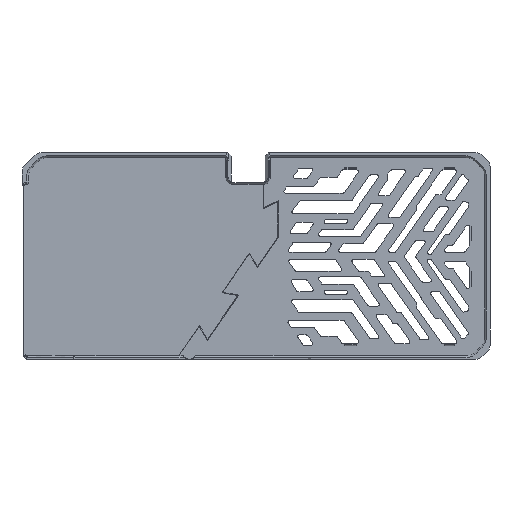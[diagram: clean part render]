
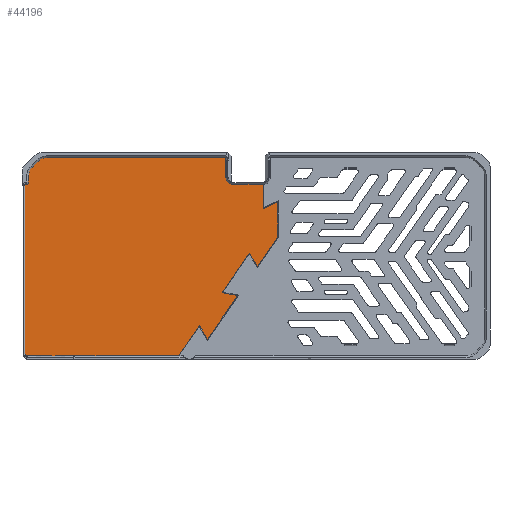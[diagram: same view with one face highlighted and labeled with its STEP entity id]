
A CAD part, top view. The second image highlights one B-rep face of the part: STEP entity #44196.
In plain terms, the highlighted planar face has unit normal (0, 0, 1).
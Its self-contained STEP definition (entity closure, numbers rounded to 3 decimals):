
#31089=DIRECTION('',(0.,-1.,0.));
#31090=VECTOR('',#31089,13.659);
#31091=CARTESIAN_POINT('',(3.8,40.783,-39.5));
#31092=LINE('',#31091,#31090);
#31093=DIRECTION('',(-0.901,-0.435,0.));
#31094=VECTOR('',#31093,8.883);
#31095=CARTESIAN_POINT('',(11.8,30.985,-39.5));
#31096=LINE('',#31095,#31094);
#31097=DIRECTION('',(0.,1.,0.));
#31098=VECTOR('',#31097,20.);
#31099=CARTESIAN_POINT('',(11.8,10.985,-39.5));
#31100=LINE('',#31099,#31098);
#31101=DIRECTION('',(0.566,0.825,0.));
#31102=VECTOR('',#31101,20.);
#31103=CARTESIAN_POINT('',(0.483,-5.506,-39.5));
#31104=LINE('',#31103,#31102);
#31105=DIRECTION('',(0.515,-0.857,0.));
#31106=VECTOR('',#31105,8.794);
#31107=CARTESIAN_POINT('',(-4.047,2.031,-39.5));
#31108=LINE('',#31107,#31106);
#31109=DIRECTION('',(-0.566,-0.825,0.));
#31110=VECTOR('',#31109,27.015);
#31111=CARTESIAN_POINT('',(-4.047,2.031,-39.5));
#31112=LINE('',#31111,#31110);
#31113=DIRECTION('',(-0.985,0.172,0.));
#31114=VECTOR('',#31113,8.794);
#31115=CARTESIAN_POINT('',(-10.671,-21.76,-39.5));
#31116=LINE('',#31115,#31114);
#31117=DIRECTION('',(0.566,0.825,0.));
#31118=VECTOR('',#31117,30.);
#31119=CARTESIAN_POINT('',(-27.646,-46.495,-39.5));
#31120=LINE('',#31119,#31118);
#31121=DIRECTION('',(0.498,-0.867,0.));
#31122=VECTOR('',#31121,8.878);
#31123=CARTESIAN_POINT('',(-32.064,-38.795,-39.5));
#31124=LINE('',#31123,#31122);
#31125=DIRECTION('',(-0.566,-0.825,0.));
#31126=VECTOR('',#31125,20.603);
#31127=CARTESIAN_POINT('',(-32.064,-38.795,-39.5));
#31128=LINE('',#31127,#31126);
#31129=DIRECTION('',(1.,0.,0.));
#31130=VECTOR('',#31129,46.453);
#31131=CARTESIAN_POINT('',(-90.175,-55.783,-39.5));
#31132=LINE('',#31131,#31130);
#31133=CARTESIAN_POINT('',(-90.653,-53.38,-39.5));
#31134=DIRECTION('',(0.,0.,-1.));
#31135=DIRECTION('',(0.195,-0.981,0.));
#31136=AXIS2_PLACEMENT_3D('',#31133,#31134,#31135);
#31138=DIRECTION('',(1.,0.,0.));
#31139=VECTOR('',#31138,22.186);
#31140=CARTESIAN_POINT('',(-113.317,-55.783,-39.5));
#31141=LINE('',#31140,#31139);
#31142=CARTESIAN_POINT('',(-114.303,-53.54,-39.5));
#31143=DIRECTION('',(0.,0.,-1.));
#31144=DIRECTION('',(0.402,-0.915,0.));
#31145=AXIS2_PLACEMENT_3D('',#31142,#31143,#31144);
#31147=DIRECTION('',(1.,0.,0.));
#31148=VECTOR('',#31147,13.711);
#31149=CARTESIAN_POINT('',(-129.,-55.783,-39.5));
#31150=LINE('',#31149,#31148);
#31151=CARTESIAN_POINT('',(-129.,-54.5,-39.5));
#31152=DIRECTION('',(0.,0.,1.));
#31153=DIRECTION('',(-1.,0.,0.));
#31154=AXIS2_PLACEMENT_3D('',#31151,#31152,#31153);
#31156=DIRECTION('',(0.,-1.,0.));
#31157=VECTOR('',#31156,94.5);
#31158=CARTESIAN_POINT('',(-130.283,40.,-39.5));
#31159=LINE('',#31158,#31157);
#31160=CARTESIAN_POINT('',(-129.5,40.,-39.5));
#31161=DIRECTION('',(0.,0.,1.));
#31162=DIRECTION('',(0.,1.,0.));
#31163=AXIS2_PLACEMENT_3D('',#31160,#31161,#31162);
#31165=CARTESIAN_POINT('',(-129.5,42.,-39.5));
#31166=DIRECTION('',(0.,0.,-1.));
#31167=DIRECTION('',(1.,0.,0.));
#31168=AXIS2_PLACEMENT_3D('',#31165,#31166,#31167);
#31170=DIRECTION('',(0.,-1.,0.));
#31171=VECTOR('',#31170,3.186);
#31172=CARTESIAN_POINT('',(-128.283,45.186,-39.5));
#31173=LINE('',#31172,#31171);
#31174=CARTESIAN_POINT('',(-121.,45.186,-39.5));
#31175=DIRECTION('',(0.,0.,1.));
#31176=DIRECTION('',(-0.707,0.707,0.));
#31177=AXIS2_PLACEMENT_3D('',#31174,#31175,#31176);
#31179=DIRECTION('',(-0.707,-0.707,0.));
#31180=VECTOR('',#31179,4.686);
#31181=CARTESIAN_POINT('',(-122.836,53.65,-39.5));
#31182=LINE('',#31181,#31180);
#31183=CARTESIAN_POINT('',(-117.686,48.5,-39.5));
#31184=DIRECTION('',(0.,0.,1.));
#31185=DIRECTION('',(0.,1.,0.));
#31186=AXIS2_PLACEMENT_3D('',#31183,#31184,#31185);
#31188=DIRECTION('',(-1.,0.,0.));
#31189=VECTOR('',#31188,100.469);
#31190=CARTESIAN_POINT('',(-17.217,55.783,-39.5));
#31191=LINE('',#31190,#31189);
#31192=CARTESIAN_POINT('',(-13.5,44.5,-39.5));
#31193=DIRECTION('',(0.,0.,-1.));
#31194=DIRECTION('',(0.,-1.,0.));
#31195=AXIS2_PLACEMENT_3D('',#31192,#31193,#31194);
#31253=CARTESIAN_POINT('',(-113.317,-55.783,-39.5));
#31256=CARTESIAN_POINT('',(-115.289,-55.783,-39.5));
#31258=CARTESIAN_POINT('',(-90.175,-55.783,-39.5));
#31261=CARTESIAN_POINT('',(-91.132,-55.783,-39.5));
#31432=DIRECTION('',(1.,0.,0.));
#31433=VECTOR('',#31432,17.3);
#31434=CARTESIAN_POINT('',(-13.5,40.783,-39.5));
#31435=LINE('',#31434,#31433);
#31659=DIRECTION('',(0.,-1.,0.));
#31660=VECTOR('',#31659,11.283);
#31661=CARTESIAN_POINT('',(-17.217,55.783,-39.5));
#31662=LINE('',#31661,#31660);
#32813=CARTESIAN_POINT('',(-17.217,55.783,-39.5));
#32814=CARTESIAN_POINT('',(-117.686,55.783,-39.5));
#32815=VERTEX_POINT('',#32813);
#32816=VERTEX_POINT('',#32814);
#32817=CARTESIAN_POINT('',(-122.836,53.65,-39.5));
#32818=VERTEX_POINT('',#32817);
#32819=CARTESIAN_POINT('',(-126.15,50.336,-39.5));
#32820=VERTEX_POINT('',#32819);
#32821=CARTESIAN_POINT('',(-128.283,45.186,-39.5));
#32822=VERTEX_POINT('',#32821);
#32823=CARTESIAN_POINT('',(-128.283,42.,-39.5));
#32824=VERTEX_POINT('',#32823);
#32825=CARTESIAN_POINT('',(-129.5,40.783,-39.5));
#32826=VERTEX_POINT('',#32825);
#32827=CARTESIAN_POINT('',(-130.283,40.,-39.5));
#32828=VERTEX_POINT('',#32827);
#32829=CARTESIAN_POINT('',(-130.283,-54.5,-39.5));
#32830=VERTEX_POINT('',#32829);
#32831=CARTESIAN_POINT('',(-129.,-55.783,-39.5));
#32832=VERTEX_POINT('',#32831);
#32837=VERTEX_POINT('',#31258);
#32838=VERTEX_POINT('',#31261);
#32839=VERTEX_POINT('',#31253);
#32840=VERTEX_POINT('',#31256);
#34995=CARTESIAN_POINT('',(-13.5,40.783,-39.5));
#34996=CARTESIAN_POINT('',(-17.217,44.5,-39.5));
#34997=VERTEX_POINT('',#34995);
#34998=VERTEX_POINT('',#34996);
#35340=CARTESIAN_POINT('',(3.8,40.783,-39.5));
#35342=VERTEX_POINT('',#35340);
#35344=CARTESIAN_POINT('',(3.8,27.124,-39.5));
#35345=VERTEX_POINT('',#35344);
#35350=CARTESIAN_POINT('',(-43.722,-55.783,-39.5));
#35351=VERTEX_POINT('',#35350);
#35378=CARTESIAN_POINT('',(-4.047,2.031,-39.5));
#35379=CARTESIAN_POINT('',(-19.333,-20.243,-39.5));
#35380=VERTEX_POINT('',#35378);
#35381=VERTEX_POINT('',#35379);
#35382=CARTESIAN_POINT('',(-32.064,-38.795,-39.5));
#35383=VERTEX_POINT('',#35382);
#35384=CARTESIAN_POINT('',(0.483,-5.506,-39.5));
#35385=VERTEX_POINT('',#35384);
#35386=CARTESIAN_POINT('',(11.8,10.985,-39.5));
#35387=VERTEX_POINT('',#35386);
#35388=CARTESIAN_POINT('',(11.8,30.985,-39.5));
#35389=VERTEX_POINT('',#35388);
#35390=CARTESIAN_POINT('',(-27.646,-46.495,-39.5));
#35391=VERTEX_POINT('',#35390);
#35392=CARTESIAN_POINT('',(-10.671,-21.76,-39.5));
#35393=VERTEX_POINT('',#35392);
#44139=CARTESIAN_POINT('',(0.,0.,-39.5));
#44140=DIRECTION('',(0.,0.,1.));
#44141=DIRECTION('',(-1.,0.,0.));
#44142=AXIS2_PLACEMENT_3D('',#44139,#44140,#44141);
#44143=PLANE('',#44142);
#44145=ORIENTED_EDGE('',*,*,#44144,.T.);
#44147=ORIENTED_EDGE('',*,*,#44146,.F.);
#44149=ORIENTED_EDGE('',*,*,#44148,.F.);
#44151=ORIENTED_EDGE('',*,*,#44150,.F.);
#44153=ORIENTED_EDGE('',*,*,#44152,.F.);
#44155=ORIENTED_EDGE('',*,*,#44154,.T.);
#44157=ORIENTED_EDGE('',*,*,#44156,.F.);
#44159=ORIENTED_EDGE('',*,*,#44158,.F.);
#44161=ORIENTED_EDGE('',*,*,#44160,.F.);
#44163=ORIENTED_EDGE('',*,*,#44162,.T.);
#44165=ORIENTED_EDGE('',*,*,#44164,.F.);
#44167=ORIENTED_EDGE('',*,*,#44166,.T.);
#44169=ORIENTED_EDGE('',*,*,#44168,.F.);
#44171=ORIENTED_EDGE('',*,*,#44170,.T.);
#44173=ORIENTED_EDGE('',*,*,#44172,.F.);
#44174=ORIENTED_EDGE('',*,*,#44128,.F.);
#44175=ORIENTED_EDGE('',*,*,#35795,.F.);
#44176=ORIENTED_EDGE('',*,*,#35810,.F.);
#44177=ORIENTED_EDGE('',*,*,#35825,.F.);
#44179=ORIENTED_EDGE('',*,*,#44178,.F.);
#44181=ORIENTED_EDGE('',*,*,#44180,.F.);
#44183=ORIENTED_EDGE('',*,*,#44182,.F.);
#44185=ORIENTED_EDGE('',*,*,#44184,.F.);
#44187=ORIENTED_EDGE('',*,*,#44186,.F.);
#44189=ORIENTED_EDGE('',*,*,#44188,.T.);
#44191=ORIENTED_EDGE('',*,*,#44190,.F.);
#44193=ORIENTED_EDGE('',*,*,#44192,.T.);
#44194=EDGE_LOOP('',(#44145,#44147,#44149,#44151,#44153,#44155,#44157,#44159,
#44161,#44163,#44165,#44167,#44169,#44171,#44173,#44174,#44175,#44176,#44177,
#44179,#44181,#44183,#44185,#44187,#44189,#44191,#44193));
#44195=FACE_OUTER_BOUND('',#44194,.F.);
#31137=CIRCLE('',#31136,2.45);
#31146=CIRCLE('',#31145,2.45);
#31155=CIRCLE('',#31154,1.283);
#31164=CIRCLE('',#31163,0.783);
#31169=CIRCLE('',#31168,1.217);
#31178=CIRCLE('',#31177,7.283);
#31187=CIRCLE('',#31186,7.283);
#31196=CIRCLE('',#31195,3.717);
#35795=EDGE_CURVE('',#32828,#32830,#31159,.T.);
#35810=EDGE_CURVE('',#32826,#32828,#31164,.T.);
#35825=EDGE_CURVE('',#32824,#32826,#31169,.T.);
#44128=EDGE_CURVE('',#32830,#32832,#31155,.T.);
#44144=EDGE_CURVE('',#35342,#35345,#31092,.T.);
#44146=EDGE_CURVE('',#35389,#35345,#31096,.T.);
#44148=EDGE_CURVE('',#35387,#35389,#31100,.T.);
#44150=EDGE_CURVE('',#35385,#35387,#31104,.T.);
#44152=EDGE_CURVE('',#35380,#35385,#31108,.T.);
#44154=EDGE_CURVE('',#35380,#35381,#31112,.T.);
#44156=EDGE_CURVE('',#35393,#35381,#31116,.T.);
#44158=EDGE_CURVE('',#35391,#35393,#31120,.T.);
#44160=EDGE_CURVE('',#35383,#35391,#31124,.T.);
#44162=EDGE_CURVE('',#35383,#35351,#31128,.T.);
#44164=EDGE_CURVE('',#32837,#35351,#31132,.T.);
#44166=EDGE_CURVE('',#32837,#32838,#31137,.T.);
#44168=EDGE_CURVE('',#32839,#32838,#31141,.T.);
#44170=EDGE_CURVE('',#32839,#32840,#31146,.T.);
#44172=EDGE_CURVE('',#32832,#32840,#31150,.T.);
#44178=EDGE_CURVE('',#32822,#32824,#31173,.T.);
#44180=EDGE_CURVE('',#32820,#32822,#31178,.T.);
#44182=EDGE_CURVE('',#32818,#32820,#31182,.T.);
#44184=EDGE_CURVE('',#32816,#32818,#31187,.T.);
#44186=EDGE_CURVE('',#32815,#32816,#31191,.T.);
#44188=EDGE_CURVE('',#32815,#34998,#31662,.T.);
#44190=EDGE_CURVE('',#34997,#34998,#31196,.T.);
#44192=EDGE_CURVE('',#34997,#35342,#31435,.T.);
#44196=ADVANCED_FACE('',(#44195),#44143,.T.);
